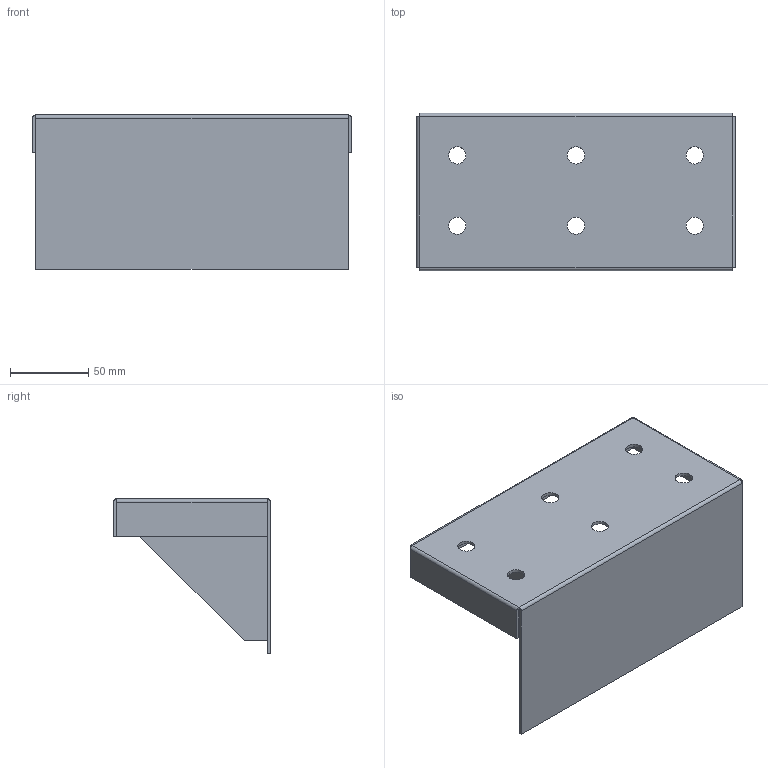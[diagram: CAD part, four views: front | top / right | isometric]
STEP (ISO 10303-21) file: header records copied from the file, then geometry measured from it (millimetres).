
FILE_DESCRIPTION(/* description */ ('STEP AP242','CAx-IF Rec.Pracs.---Representation and Presentation of Product Manufacturing Information (PMI)---4.0---2014-10-13','CAx-IF Rec.Pracs.---3D Tessellated Geometry---0.4---2014-09-14','2;1'),/* implementation_level */ '2;1');
FILE_NAME(/* name */ '68cd0adfe2a9771f7bc1dcef',/* time_stamp */ '2025-09-19T07:48:48Z',/* author */ (''),/* organization */ (''),/* preprocessor_version */ 'ST-DEVELOPER v20',/* originating_system */ 'ONSHAPE BY PTC INC, 1.203',/* authorisation */ ' ');
FILE_SCHEMA (('AP242_MANAGED_MODEL_BASED_3D_ENGINEERING_MIM_LF { 1 0 10303 442 1 1 4 }'));
Length unit declared in the file: metre
Products named in the file (3): ??????word?????&??????-??????????t3.2???t2.3_241202??????
Bounding box: 204.2 x 100.9 x 98.8 mm (x, y, z)
Volume: 107715.2 mm3; surface area: 118914.6 mm2
Topology: 3 solids, 3 shells, 52 faces, 130 edges, 84 vertices
Faces by surface type: plane 38, cylinder 14
Full cylindrical faces by diameter (mm): 11 x6
Entity records: 1606 total; most frequent: CARTESIAN_POINT 263, DIRECTION 262, ORIENTED_EDGE 248, EDGE_CURVE 124, LINE 96, VECTOR 96, VERTEX_POINT 84, AXIS2_PLACEMENT_3D 83
